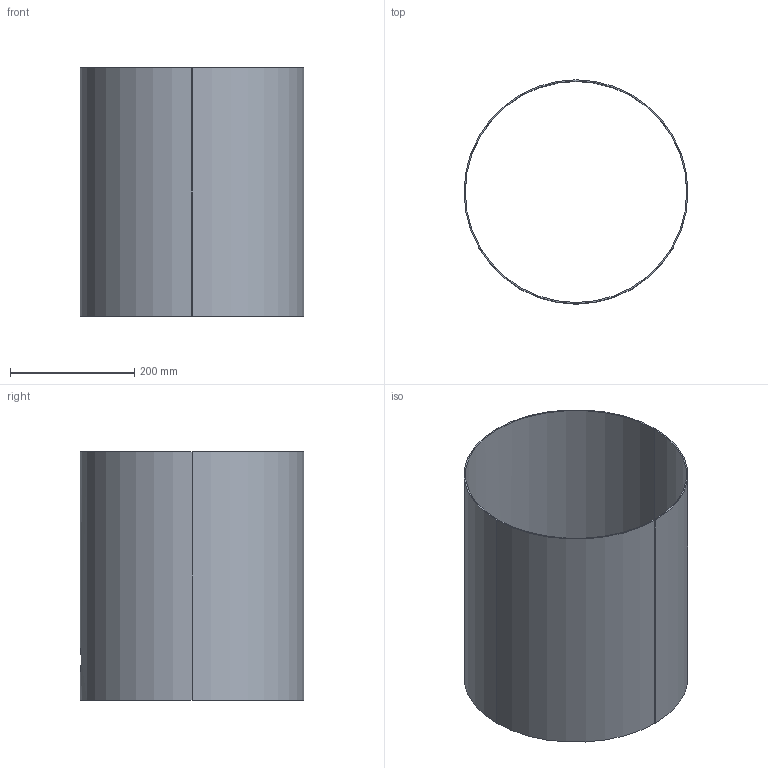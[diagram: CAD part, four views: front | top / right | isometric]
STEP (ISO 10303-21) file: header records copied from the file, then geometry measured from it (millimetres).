
FILE_DESCRIPTION (( 'STEP AP203' ), '1' );
FILE_NAME ('Virole.STEP', '2019-02-25T14:21:39', ( '' ), ( '' ), 'SwSTEP 2.0', 'SolidWorks 2019', '' );
FILE_SCHEMA (( 'CONFIG_CONTROL_DESIGN' ));
Length unit declared in the file: millimetre
Products named in the file (1): Virole
Bounding box: 360 x 360 x 400 mm (x, y, z)
Volume: 895015.9 mm3; surface area: 901424.8 mm2
Topology: 1 solids, 1 shells, 12 faces, 30 edges, 20 vertices
Faces by surface type: cylinder 8, plane 4
Entity records: 679 total; most frequent: CARTESIAN_POINT 303, DIRECTION 64, ORIENTED_EDGE 60, EDGE_CURVE 30, AXIS2_PLACEMENT_3D 25, VERTEX_POINT 20, EDGE_LOOP 14, VECTOR 14
